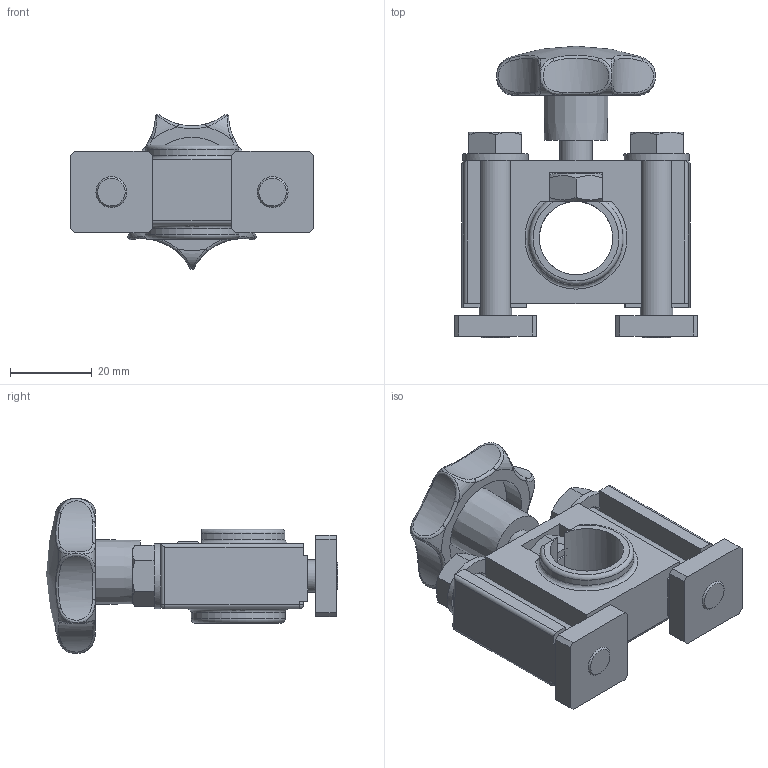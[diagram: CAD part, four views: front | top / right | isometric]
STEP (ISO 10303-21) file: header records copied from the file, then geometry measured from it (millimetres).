
FILE_DESCRIPTION((''),'2;1');
FILE_NAME('C:\Vault Klient\Projekt\Step\300-3200.stp','2009-12-09T14:34:03',('Mathias'),(''),'Autodesk Inventor 2010','Autodesk Inventor 2010','');
FILE_SCHEMA(('CONFIG_CONTROL_DESIGN'));
Length unit declared in the file: millimetre
Products named in the file (1): 300-3200
Bounding box: 59.5 x 71.4 x 38.03 mm (x, y, z)
Volume: 41984.5 mm3; surface area: 16526.2 mm2
Topology: 1 solids, 1 shells, 202 faces, 509 edges, 316 vertices
Faces by surface type: plane 98, bspline 29, cylinder 27, torus 23, cone 20, sphere 5
Full cylindrical faces by diameter (mm): 8 x3, 16 x2, 18 x1, 23 x1, 24.873 x1
Entity records: 10399 total; most frequent: CARTESIAN_POINT 5704, ORIENTED_EDGE 956, DIRECTION 872, EDGE_CURVE 478, AXIS2_PLACEMENT_3D 334, VERTEX_POINT 308, EDGE_LOOP 238, VECTOR 204
